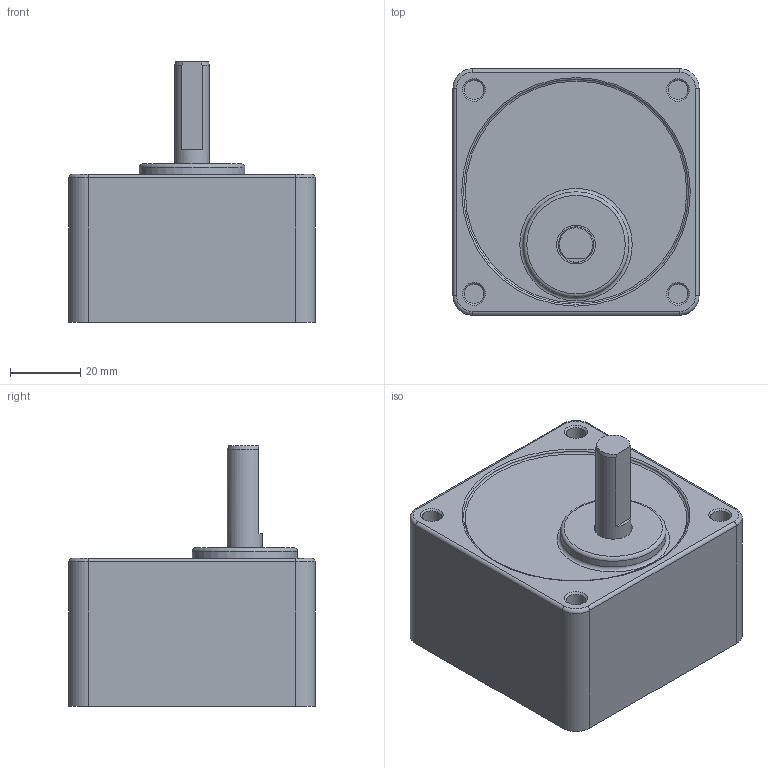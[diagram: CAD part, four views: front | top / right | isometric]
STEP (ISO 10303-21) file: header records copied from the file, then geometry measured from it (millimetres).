
FILE_DESCRIPTION((''),'2;1');
FILE_NAME('D:\STP파일\GEAR HEAD\15W\S7DA20~200.stp','2013-05-20T19:08:23',('leebh'),(''),'Autodesk Inventor 2011','Autodesk Inventor 2011','');
FILE_SCHEMA(('AUTOMOTIVE_DESIGN { 1 0 10303 214 1 1 1 1 }'));
Length unit declared in the file: millimetre
Products named in the file (1): S9I90G-T1
Bounding box: 70 x 70 x 74 mm (x, y, z)
Volume: 186694.8 mm3; surface area: 26069.3 mm2
Topology: 1 solids, 1 shells, 48 faces, 93 edges, 57 vertices
Faces by surface type: plane 18, cylinder 17, torus 8, cone 5
Full cylindrical faces by diameter (mm): 5.5 x4, 7 x1, 10 x1, 11 x1, 30 x1, 64 x1
Entity records: 1156 total; most frequent: DIRECTION 220, CARTESIAN_POINT 184, ORIENTED_EDGE 150, AXIS2_PLACEMENT_3D 98, EDGE_CURVE 75, EDGE_LOOP 75, VERTEX_POINT 56, CIRCLE 49
